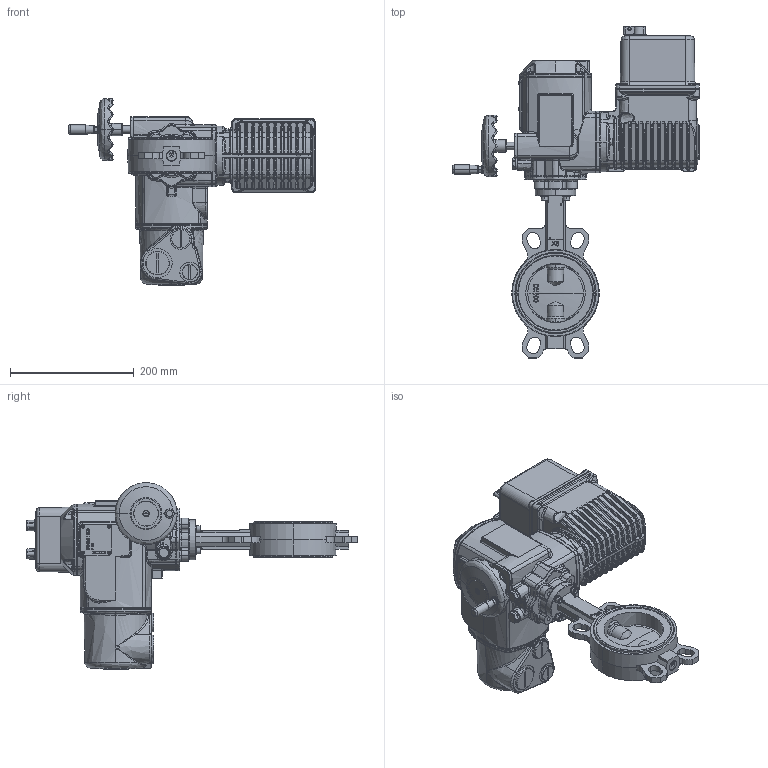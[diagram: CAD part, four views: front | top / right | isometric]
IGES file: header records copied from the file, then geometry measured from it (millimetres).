
Start section: SolidWorks IGES file using NURBS representation for surfaces
Global section: file name: H:\BE BIBLIOTHEQUE 3D\Projet_Biblio3D_2016\FSK\VPI\VPI-U24\VPI-U24 DN100.Igs; native system: SolidWorks 2014; preprocessor: SolidWorks 2014; author: a.cartier; date: 160929.182006; units: millimetre
Bounding box: 398.75 x 536.55 x 301.71 mm (x, y, z)
Volume: 7578325.9 mm3; surface area: 639560.3 mm2
Topology: 46 solids, 48 shells, 4236 faces, 10368 edges, 6134 vertices
Faces by surface type: bspline 4236
